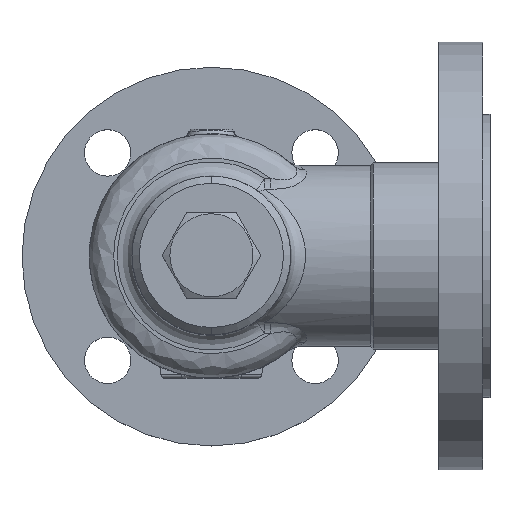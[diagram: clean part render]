
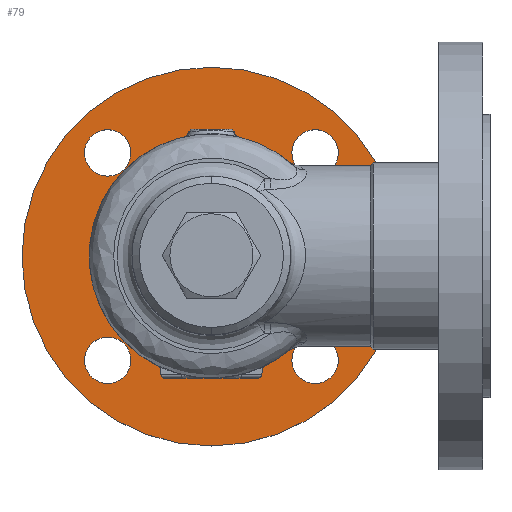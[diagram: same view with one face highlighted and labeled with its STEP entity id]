
A CAD part, top view. The second image highlights one B-rep face of the part: STEP entity #79.
In plain terms, the highlighted planar face has unit normal (0, 0, 1) as drawn and (0, 1, 0) by its records, which use the part's own axes.
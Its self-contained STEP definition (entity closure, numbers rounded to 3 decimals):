
#79=ADVANCED_FACE('',(#250,#251,#252,#253,#254,#255),#249,.T.);
#249=PLANE('',#1539);
#250=FACE_OUTER_BOUND('',#1540,.T.);
#251=FACE_BOUND('',#1541,.T.);
#252=FACE_BOUND('',#1542,.T.);
#253=FACE_BOUND('',#1543,.T.);
#254=FACE_BOUND('',#1544,.T.);
#255=FACE_BOUND('',#1545,.T.);
#1536=CARTESIAN_POINT('',(-144.234,-140.,-165.));
#1537=DIRECTION('',(0.,1.,0.));
#1538=DIRECTION('',(0.,0.,1.));
#1539=AXIS2_PLACEMENT_3D('',#1536,#1537,#1538);
#1540=EDGE_LOOP('',(#3619,#3620));
#1541=EDGE_LOOP('',(#3621,#3622));
#1542=EDGE_LOOP('',(#3623,#3624));
#1543=EDGE_LOOP('',(#3625,#3626));
#1544=EDGE_LOOP('',(#3627,#3628));
#1545=EDGE_LOOP('',(#3629,#3630));
#3619=ORIENTED_EDGE('',*,*,#4236,.T.);
#3620=ORIENTED_EDGE('',*,*,#4237,.T.);
#3621=ORIENTED_EDGE('',*,*,#4238,.F.);
#3622=ORIENTED_EDGE('',*,*,#4239,.F.);
#3623=ORIENTED_EDGE('',*,*,#4240,.F.);
#3624=ORIENTED_EDGE('',*,*,#4241,.F.);
#3625=ORIENTED_EDGE('',*,*,#4242,.F.);
#3626=ORIENTED_EDGE('',*,*,#4243,.F.);
#3627=ORIENTED_EDGE('',*,*,#4244,.F.);
#3628=ORIENTED_EDGE('',*,*,#4245,.F.);
#3629=ORIENTED_EDGE('',*,*,#4246,.F.);
#3630=ORIENTED_EDGE('',*,*,#4247,.F.);
#4236=EDGE_CURVE('',#4694,#4695,#4696,.T.);
#4237=EDGE_CURVE('',#4695,#4694,#4702,.T.);
#4238=EDGE_CURVE('',#4708,#4709,#4710,.T.);
#4239=EDGE_CURVE('',#4709,#4708,#4716,.T.);
#4240=EDGE_CURVE('',#4722,#4723,#4724,.T.);
#4241=EDGE_CURVE('',#4723,#4722,#4730,.T.);
#4242=EDGE_CURVE('',#4736,#4737,#4738,.T.);
#4243=EDGE_CURVE('',#4737,#4736,#4744,.T.);
#4244=EDGE_CURVE('',#4750,#4751,#4752,.T.);
#4245=EDGE_CURVE('',#4751,#4750,#4758,.T.);
#4246=EDGE_CURVE('',#4764,#4765,#4766,.T.);
#4247=EDGE_CURVE('',#4765,#4764,#4772,.T.);
#4694=VERTEX_POINT('',#6707);
#4695=VERTEX_POINT('',#6708);
#4696=CIRCLE('',#6712,77.5);
#4702=CIRCLE('',#6716,77.5);
#4708=VERTEX_POINT('',#6717);
#4709=VERTEX_POINT('',#6718);
#4710=CIRCLE('',#6722,9.5);
#4716=CIRCLE('',#6726,9.5);
#4722=VERTEX_POINT('',#6727);
#4723=VERTEX_POINT('',#6728);
#4724=CIRCLE('',#6732,9.5);
#4730=CIRCLE('',#6736,9.5);
#4736=VERTEX_POINT('',#6737);
#4737=VERTEX_POINT('',#6738);
#4738=CIRCLE('',#6742,9.5);
#4744=CIRCLE('',#6746,9.5);
#4750=VERTEX_POINT('',#6747);
#4751=VERTEX_POINT('',#6748);
#4752=CIRCLE('',#6752,9.5);
#4758=CIRCLE('',#6756,9.5);
#4764=VERTEX_POINT('',#6757);
#4765=VERTEX_POINT('',#6758);
#4766=CIRCLE('',#6762,31.05);
#4772=CIRCLE('',#6766,31.05);
#6707=CARTESIAN_POINT('',(0.,-140.,77.5));
#6708=CARTESIAN_POINT('',(0.,-140.,-77.5));
#6709=CARTESIAN_POINT('',(0.,-140.,0.));
#6710=DIRECTION('',(0.,1.,0.));
#6711=DIRECTION('',(0.,0.,1.));
#6712=AXIS2_PLACEMENT_3D('',#6709,#6710,#6711);
#6713=CARTESIAN_POINT('',(0.,-140.,0.));
#6714=DIRECTION('',(0.,1.,0.));
#6715=DIRECTION('',(0.,0.,1.));
#6716=AXIS2_PLACEMENT_3D('',#6713,#6714,#6715);
#6717=CARTESIAN_POINT('',(42.426,-140.,-51.926));
#6718=CARTESIAN_POINT('',(42.426,-140.,-32.926));
#6719=CARTESIAN_POINT('',(42.426,-140.,-42.426));
#6720=DIRECTION('',(0.,1.,0.));
#6721=DIRECTION('',(0.,0.,1.));
#6722=AXIS2_PLACEMENT_3D('',#6719,#6720,#6721);
#6723=CARTESIAN_POINT('',(42.426,-140.,-42.426));
#6724=DIRECTION('',(0.,1.,0.));
#6725=DIRECTION('',(0.,0.,1.));
#6726=AXIS2_PLACEMENT_3D('',#6723,#6724,#6725);
#6727=CARTESIAN_POINT('',(42.426,-140.,32.926));
#6728=CARTESIAN_POINT('',(42.426,-140.,51.926));
#6729=CARTESIAN_POINT('',(42.426,-140.,42.426));
#6730=DIRECTION('',(0.,1.,0.));
#6731=DIRECTION('',(0.,0.,1.));
#6732=AXIS2_PLACEMENT_3D('',#6729,#6730,#6731);
#6733=CARTESIAN_POINT('',(42.426,-140.,42.426));
#6734=DIRECTION('',(0.,1.,0.));
#6735=DIRECTION('',(0.,0.,1.));
#6736=AXIS2_PLACEMENT_3D('',#6733,#6734,#6735);
#6737=CARTESIAN_POINT('',(-42.426,-140.,32.926));
#6738=CARTESIAN_POINT('',(-42.426,-140.,51.926));
#6739=CARTESIAN_POINT('',(-42.426,-140.,42.426));
#6740=DIRECTION('',(0.,1.,0.));
#6741=DIRECTION('',(0.,0.,1.));
#6742=AXIS2_PLACEMENT_3D('',#6739,#6740,#6741);
#6743=CARTESIAN_POINT('',(-42.426,-140.,42.426));
#6744=DIRECTION('',(0.,1.,0.));
#6745=DIRECTION('',(0.,0.,1.));
#6746=AXIS2_PLACEMENT_3D('',#6743,#6744,#6745);
#6747=CARTESIAN_POINT('',(-42.426,-140.,-51.926));
#6748=CARTESIAN_POINT('',(-42.426,-140.,-32.926));
#6749=CARTESIAN_POINT('',(-42.426,-140.,-42.426));
#6750=DIRECTION('',(0.,1.,0.));
#6751=DIRECTION('',(0.,0.,1.));
#6752=AXIS2_PLACEMENT_3D('',#6749,#6750,#6751);
#6753=CARTESIAN_POINT('',(-42.426,-140.,-42.426));
#6754=DIRECTION('',(0.,1.,0.));
#6755=DIRECTION('',(0.,0.,1.));
#6756=AXIS2_PLACEMENT_3D('',#6753,#6754,#6755);
#6757=CARTESIAN_POINT('',(0.,-140.,-31.05));
#6758=CARTESIAN_POINT('',(0.,-140.,31.05));
#6759=CARTESIAN_POINT('',(0.,-140.,0.));
#6760=DIRECTION('',(0.,1.,0.));
#6761=DIRECTION('',(0.,0.,1.));
#6762=AXIS2_PLACEMENT_3D('',#6759,#6760,#6761);
#6763=CARTESIAN_POINT('',(0.,-140.,0.));
#6764=DIRECTION('',(0.,1.,0.));
#6765=DIRECTION('',(0.,0.,1.));
#6766=AXIS2_PLACEMENT_3D('',#6763,#6764,#6765);
